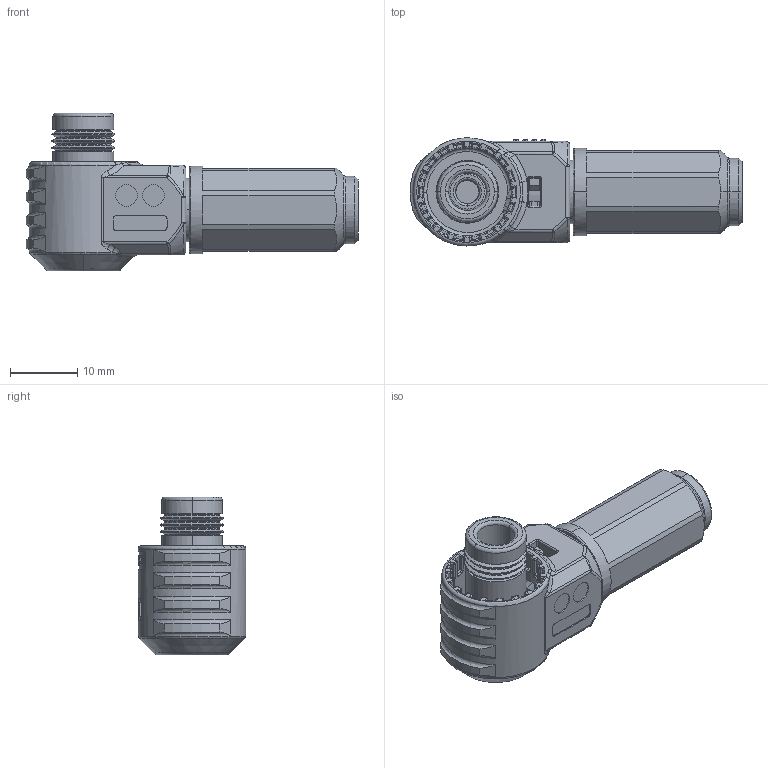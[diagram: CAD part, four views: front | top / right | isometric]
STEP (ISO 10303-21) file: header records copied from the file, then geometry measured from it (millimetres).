
FILE_DESCRIPTION((''),'2;1');
FILE_NAME('CT-P0136-N','2024-05-30T15:48:10',('xny-lf'),(''),'CREO PARAMETRIC BY PTC INC, 2018050','CREO PARAMETRIC BY PTC INC, 2018050','');
FILE_SCHEMA(('CONFIG_CONTROL_DESIGN'));
Length unit declared in the file: millimetre
Products named in the file (1): CT-P0136-N
Bounding box: 49.2 x 16 x 23.4 mm (x, y, z)
Volume: 7013.9 mm3; surface area: 5082.8 mm2
Topology: 1 solids, 1 shells, 1036 faces, 2735 edges, 1653 vertices
Faces by surface type: cylinder 347, plane 279, bspline 154, torus 149, cone 57, sphere 48, extrusion 2
Entity records: 43665 total; most frequent: CARTESIAN_POINT 19513, ORIENTED_EDGE 5374, DIRECTION 4769, EDGE_CURVE 2687, AXIS2_PLACEMENT_3D 1947, VERTEX_POINT 1653, EDGE_LOOP 1070, CIRCLE 1067
